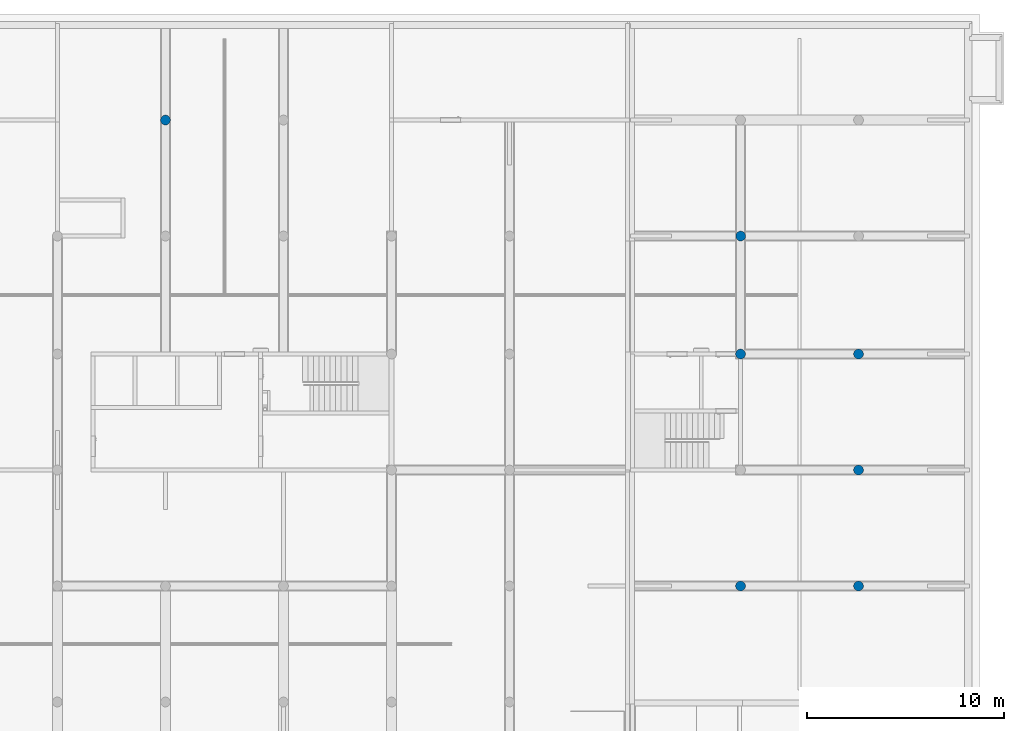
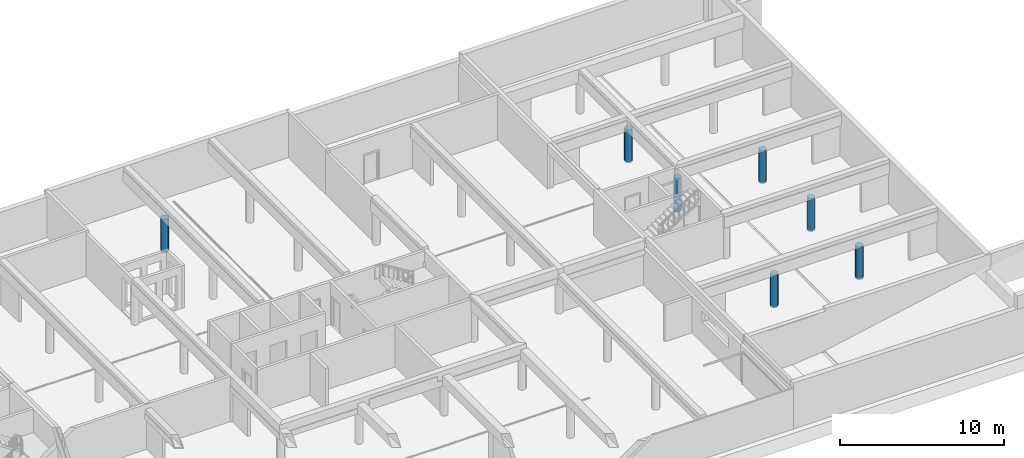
# One storey, part 5 of 25: 7 columns.
"""IFC2X3 building model written with IfcOpenShell, lengths in millimetres."""

from ifc_helpers import new_model, entity, si_unit, converted_unit, derived_unit, money_unit, direction, frame, origin_with_axes, place, context, subcontext, project, spatial, faceted_brep, material, type_object, element, save


model = new_model("IFC2X3")

# Units and contexts
model_context = context("Model", 3, precision=0.01, world=origin_with_axes(), true_north=direction((0.34421633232, 0.938890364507)))
body_context = subcontext(model_context, "Body", "Model", "MODEL_VIEW")
ifc_project = project(units=[si_unit("LENGTHUNIT", "METRE", prefix="MILLI"), si_unit("AREAUNIT", "SQUARE_METRE"), si_unit("VOLUMEUNIT", "CUBIC_METRE"), converted_unit("PLANEANGLEUNIT", "DEGREE", entity("IfcPlaneAngleMeasure", 0.0174532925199), si_unit("PLANEANGLEUNIT", "RADIAN"), dimensions=[0, 0, 0, 0, 0, 0, 0]), si_unit("SOLIDANGLEUNIT", "STERADIAN"), money_unit("USD"), converted_unit("TIMEUNIT", "Year", entity("IfcTimeMeasure", 31556926.0), si_unit("TIMEUNIT", "SECOND"), dimensions=[0, 0, 1, 0, 0, 0, 0]), si_unit("MASSUNIT", "GRAM", prefix="KILO"), si_unit("THERMODYNAMICTEMPERATUREUNIT", "DEGREE_CELSIUS"), si_unit("LUMINOUSINTENSITYUNIT", "LUMEN"), si_unit("ENERGYUNIT", "JOULE", prefix="MEGA"), derived_unit("THERMALCONDUCTANCEUNIT", [(si_unit("POWERUNIT", "WATT"), 1), (si_unit("LENGTHUNIT", "METRE"), -1), (si_unit("THERMODYNAMICTEMPERATUREUNIT", "KELVIN"), -1)]), derived_unit("SPECIFICHEATCAPACITYUNIT", [(si_unit("ENERGYUNIT", "JOULE"), 1), (si_unit("MASSUNIT", "GRAM", prefix="KILO"), -1), (si_unit("THERMODYNAMICTEMPERATUREUNIT", "KELVIN"), -1)]), derived_unit("MASSDENSITYUNIT", [(si_unit("MASSUNIT", "GRAM", prefix="KILO"), 1), (si_unit("VOLUMEUNIT", "CUBIC_METRE"), -1)])], contexts=[model_context])

# Site, building, storey
site_placement = place(None, origin_with_axes())
site = spatial("IfcSite", under=ifc_project, at=site_placement, Name="USTRONIE MORSKIE", CompositionType="ELEMENT")
building_placement = place(site_placement, origin_with_axes())
building = spatial("IfcBuilding", under=site, at=building_placement, Name="Budynek", CompositionType="ELEMENT")
storey_placement = place(building_placement, frame((0.0, 0.0, -3600.0), z_axis=(0.0, 0.0, 1.0), x_axis=(1.0, 0.0, 0.0)))
storey = spatial("IfcBuildingStorey", under=building, at=storey_placement, Name="GARAZ", CompositionType="ELEMENT", Elevation=-3600.0)

# Columns
ifc_material = material(Name="Beton konstrukcyjny 01")
column_type = type_object("IfcColumnType", Name="Beton konstrukcyjny 01 D500", PredefinedType="NOTDEFINED")
column_1_placement = place(storey_placement, frame((384817.920919, 744701.199036, -100.0), z_axis=(0.0, 0.0, 1.0), x_axis=(1.0, 0.0, 0.0)))
element("IfcColumn", 1, at=column_1_placement, inside=storey, type_object=column_type, material=ifc_material, Name="S1", context=body_context, shape_type="Brep", body=[
    faceted_brep([(-250.0, 0.0, 2470.00030619), (-250.0, 0.0, 0.0), (-246.201938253, -43.4120444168, 0.0), (-246.201938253, -43.4120444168, 2470.00030619), (-246.201938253, 43.4120444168, 2470.00030619), (-246.201938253, 43.4120444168, 0.0), (-234.923155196, 85.5050358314, 0.0), (-216.506350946, 125.0, 0.0), (-191.51111078, 160.696902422, 0.0), (-160.696902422, 191.51111078, 0.0), (-125.0, 216.506350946, 0.0), (-85.5050358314, 234.923155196, 0.0), (-43.4120444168, 246.201938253, 0.0), (0.0, 250.0, 0.0), (43.4120444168, 246.201938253, 0.0), (85.5050358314, 234.923155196, 0.0), (125.0, 216.506350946, 0.0), (160.696902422, 191.51111078, 0.0), (191.51111078, 160.696902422, 0.0), (216.506350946, 125.0, 0.0), (234.923155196, 85.5050358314, 0.0), (246.201938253, 43.4120444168, 0.0), (250.0, 0.0, 0.0), (246.201938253, -43.4120444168, 0.0), (234.923155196, -85.5050358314, 0.0), (216.506350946, -125.0, 0.0), (191.51111078, -160.696902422, 0.0), (160.696902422, -191.51111078, 0.0), (125.0, -216.506350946, 0.0), (85.5050358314, -234.923155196, 0.0), (43.4120444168, -246.201938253, 0.0), (0.0, -250.0, 0.0), (-43.4120444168, -246.201938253, 0.0), (-85.5050358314, -234.923155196, 0.0), (-125.0, -216.506350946, 0.0), (-160.696902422, -191.51111078, 0.0), (-191.51111078, -160.696902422, 0.0), (-216.506350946, -125.0, 0.0), (-234.923155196, -85.5050358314, 0.0), (-234.923155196, -85.5050358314, 2470.00030619), (-216.506350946, -125.0, 2470.00030619), (-191.51111078, -160.696902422, 2470.00030619), (-160.696902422, -191.51111078, 2470.00030619), (-125.0, -216.506350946, 2470.00030619), (-85.5050358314, -234.923155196, 2470.00030619), (-43.4120444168, -246.201938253, 2470.00030619), (0.0, -250.0, 2470.00030619), (43.4120444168, -246.201938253, 2470.00030619), (85.5050358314, -234.923155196, 2470.00030619), (125.0, -216.506350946, 2470.00030619), (160.696902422, -191.51111078, 2470.00030619), (191.51111078, -160.696902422, 2470.00030619), (216.506350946, -125.0, 2470.00030619), (234.923155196, -85.5050358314, 2470.00030619), (246.201938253, -43.4120444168, 2470.00030619), (250.0, 0.0, 2470.00030619), (246.201938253, 43.4120444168, 2470.00030619), (234.923155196, 85.5050358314, 2470.00030619), (216.506350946, 125.0, 2470.00030619), (191.51111078, 160.696902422, 2470.00030619), (160.696902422, 191.51111078, 2470.00030619), (125.0, 216.506350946, 2470.00030619), (85.5050358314, 234.923155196, 2470.00030619), (43.4120444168, 246.201938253, 2470.00030619), (0.0, 250.0, 2470.00030619), (-43.4120444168, 246.201938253, 2470.00030619), (-85.5050358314, 234.923155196, 2470.00030619), (-125.0, 216.506350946, 2470.00030619), (-160.696902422, 191.51111078, 2470.00030619), (-191.51111078, 160.696902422, 2470.00030619), (-216.506350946, 125.0, 2470.00030619), (-234.923155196, 85.5050358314, 2470.00030619)], [[[0, 1, 2, 3]], [[4, 5, 1, 0]], [[2, 1, 5, 6, 7, 8, 9, 10, 11, 12, 13, 14, 15, 16, 17, 18, 19, 20, 21, 22, 23, 24, 25, 26, 27, 28, 29, 30, 31, 32, 33, 34, 35, 36, 37, 38]], [[3, 2, 38, 39]], [[4, 0, 3, 39, 40, 41, 42, 43, 44, 45, 46, 47, 48, 49, 50, 51, 52, 53, 54, 55, 56, 57, 58, 59, 60, 61, 62, 63, 64, 65, 66, 67, 68, 69, 70, 71]], [[71, 6, 5, 4]], [[70, 7, 6, 71]], [[69, 8, 7, 70]], [[68, 9, 8, 69]], [[67, 10, 9, 68]], [[66, 11, 10, 67]], [[65, 12, 11, 66]], [[64, 13, 12, 65]], [[63, 14, 13, 64]], [[62, 15, 14, 63]], [[61, 16, 15, 62]], [[60, 17, 16, 61]], [[59, 18, 17, 60]], [[58, 19, 18, 59]], [[57, 20, 19, 58]], [[56, 21, 20, 57]], [[55, 22, 21, 56]], [[54, 23, 22, 55]], [[53, 24, 23, 54]], [[52, 25, 24, 53]], [[51, 26, 25, 52]], [[50, 27, 26, 51]], [[49, 28, 27, 50]], [[48, 29, 28, 49]], [[47, 30, 29, 48]], [[46, 31, 30, 47]], [[45, 32, 31, 46]], [[44, 33, 32, 45]], [[43, 34, 33, 44]], [[42, 35, 34, 43]], [[41, 36, 35, 42]], [[40, 37, 36, 41]], [[39, 38, 37, 40]]]),
])
column_2_placement = place(storey_placement, frame((420067.920919, 726901.199036, -100.0), z_axis=(0.0, 0.0, 1.0), x_axis=(1.0, 0.0, 0.0)))
element("IfcColumn", 2, at=column_2_placement, inside=storey, type_object=column_type, material=ifc_material, Name="S1", context=body_context, shape_type="Brep", body=[
    faceted_brep([(246.201938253, 43.4120444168, 2470.00030619), (246.201938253, 43.4120444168, 0.0), (234.923155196, 85.5050358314, 0.0), (234.923155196, 85.5050358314, 2470.00030619), (250.0, 0.0, 2470.00030619), (250.0, 0.0, 0.0), (246.201938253, -43.4120444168, 0.0), (234.923155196, -85.5050358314, 0.0), (216.506350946, -125.0, 0.0), (191.51111078, -160.696902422, 0.0), (160.696902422, -191.51111078, 0.0), (125.0, -216.506350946, 0.0), (85.5050358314, -234.923155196, 0.0), (43.4120444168, -246.201938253, 0.0), (0.0, -250.0, 0.0), (-43.4120444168, -246.201938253, 0.0), (-85.5050358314, -234.923155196, 0.0), (-125.0, -216.506350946, 0.0), (-160.696902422, -191.51111078, 0.0), (-191.51111078, -160.696902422, 0.0), (-216.506350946, -125.0, 0.0), (-234.923155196, -85.5050358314, 0.0), (-246.201938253, -43.4120444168, 0.0), (-250.0, 0.0, 0.0), (-246.201938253, 43.4120444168, 0.0), (-234.923155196, 85.5050358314, 0.0), (-216.506350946, 125.0, 0.0), (-191.51111078, 160.696902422, 0.0), (-160.696902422, 191.51111078, 0.0), (-125.0, 216.506350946, 0.0), (-85.5050358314, 234.923155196, 0.0), (-43.4120444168, 246.201938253, 0.0), (0.0, 250.0, 0.0), (43.4120444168, 246.201938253, 0.0), (85.5050358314, 234.923155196, 0.0), (125.0, 216.506350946, 0.0), (160.696902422, 191.51111078, 0.0), (191.51111078, 160.696902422, 0.0), (216.506350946, 125.0, 0.0), (216.506350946, 125.0, 2470.00030619), (191.51111078, 160.696902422, 2470.00030619), (160.696902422, 191.51111078, 2470.00030619), (125.0, 216.506350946, 2470.00030619), (85.5050358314, 234.923155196, 2470.00030619), (43.4120444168, 246.201938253, 2470.00030619), (0.0, 250.0, 2470.00030619), (-43.4120444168, 246.201938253, 2470.00030619), (-85.5050358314, 234.923155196, 2470.00030619), (-125.0, 216.506350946, 2470.00030619), (-160.696902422, 191.51111078, 2470.00030619), (-191.51111078, 160.696902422, 2470.00030619), (-216.506350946, 125.0, 2470.00030619), (-234.923155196, 85.5050358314, 2470.00030619), (-246.201938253, 43.4120444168, 2470.00030619), (-250.0, 0.0, 2470.00030619), (-246.201938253, -43.4120444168, 2470.00030619), (-234.923155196, -85.5050358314, 2470.00030619), (-216.506350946, -125.0, 2470.00030619), (-191.51111078, -160.696902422, 2470.00030619), (-160.696902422, -191.51111078, 2470.00030619), (-125.0, -216.506350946, 2470.00030619), (-85.5050358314, -234.923155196, 2470.00030619), (-43.4120444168, -246.201938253, 2470.00030619), (0.0, -250.0, 2470.00030619), (43.4120444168, -246.201938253, 2470.00030619), (85.5050358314, -234.923155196, 2470.00030619), (125.0, -216.506350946, 2470.00030619), (160.696902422, -191.51111078, 2470.00030619), (191.51111078, -160.696902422, 2470.00030619), (216.506350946, -125.0, 2470.00030619), (234.923155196, -85.5050358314, 2470.00030619), (246.201938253, -43.4120444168, 2470.00030619)], [[[0, 1, 2, 3]], [[4, 5, 1, 0]], [[2, 1, 5, 6, 7, 8, 9, 10, 11, 12, 13, 14, 15, 16, 17, 18, 19, 20, 21, 22, 23, 24, 25, 26, 27, 28, 29, 30, 31, 32, 33, 34, 35, 36, 37, 38]], [[3, 2, 38, 39]], [[4, 0, 3, 39, 40, 41, 42, 43, 44, 45, 46, 47, 48, 49, 50, 51, 52, 53, 54, 55, 56, 57, 58, 59, 60, 61, 62, 63, 64, 65, 66, 67, 68, 69, 70, 71]], [[71, 6, 5, 4]], [[70, 7, 6, 71]], [[69, 8, 7, 70]], [[68, 9, 8, 69]], [[67, 10, 9, 68]], [[66, 11, 10, 67]], [[65, 12, 11, 66]], [[64, 13, 12, 65]], [[63, 14, 13, 64]], [[62, 15, 14, 63]], [[61, 16, 15, 62]], [[60, 17, 16, 61]], [[59, 18, 17, 60]], [[58, 19, 18, 59]], [[57, 20, 19, 58]], [[56, 21, 20, 57]], [[55, 22, 21, 56]], [[54, 23, 22, 55]], [[53, 24, 23, 54]], [[52, 25, 24, 53]], [[51, 26, 25, 52]], [[50, 27, 26, 51]], [[49, 28, 27, 50]], [[48, 29, 28, 49]], [[47, 30, 29, 48]], [[46, 31, 30, 47]], [[45, 32, 31, 46]], [[44, 33, 32, 45]], [[43, 34, 33, 44]], [[42, 35, 34, 43]], [[41, 36, 35, 42]], [[40, 37, 36, 41]], [[39, 38, 37, 40]]]),
])
column_3_placement = place(storey_placement, frame((420067.920919, 732801.199036, -100.0), z_axis=(0.0, 0.0, 1.0), x_axis=(1.0, 0.0, 0.0)))
element("IfcColumn", 3, at=column_3_placement, inside=storey, type_object=column_type, material=ifc_material, Name="S1", context=body_context, shape_type="Brep", body=[
    faceted_brep([(246.201938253, 43.4120444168, 2470.00030619), (246.201938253, 43.4120444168, 0.0), (234.923155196, 85.5050358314, 0.0), (234.923155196, 85.5050358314, 2470.00030619), (250.0, 0.0, 2470.00030619), (250.0, 0.0, 0.0), (246.201938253, -43.4120444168, 0.0), (234.923155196, -85.5050358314, 0.0), (216.506350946, -125.0, 0.0), (191.51111078, -160.696902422, 0.0), (160.696902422, -191.51111078, 0.0), (125.0, -216.506350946, 0.0), (85.5050358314, -234.923155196, 0.0), (43.4120444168, -246.201938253, 0.0), (0.0, -250.0, 0.0), (-43.4120444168, -246.201938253, 0.0), (-85.5050358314, -234.923155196, 0.0), (-125.0, -216.506350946, 0.0), (-160.696902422, -191.51111078, 0.0), (-191.51111078, -160.696902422, 0.0), (-216.506350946, -125.0, 0.0), (-234.923155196, -85.5050358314, 0.0), (-246.201938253, -43.4120444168, 0.0), (-250.0, 0.0, 0.0), (-246.201938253, 43.4120444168, 0.0), (-234.923155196, 85.5050358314, 0.0), (-216.506350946, 125.0, 0.0), (-191.51111078, 160.696902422, 0.0), (-160.696902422, 191.51111078, 0.0), (-125.0, 216.506350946, 0.0), (-85.5050358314, 234.923155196, 0.0), (-43.4120444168, 246.201938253, 0.0), (0.0, 250.0, 0.0), (43.4120444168, 246.201938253, 0.0), (85.5050358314, 234.923155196, 0.0), (125.0, 216.506350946, 0.0), (160.696902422, 191.51111078, 0.0), (191.51111078, 160.696902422, 0.0), (216.506350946, 125.0, 0.0), (216.506350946, 125.0, 2470.00030619), (191.51111078, 160.696902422, 2470.00030619), (160.696902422, 191.51111078, 2470.00030619), (125.0, 216.506350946, 2470.00030619), (85.5050358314, 234.923155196, 2470.00030619), (43.4120444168, 246.201938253, 2470.00030619), (0.0, 250.0, 2470.00030619), (-43.4120444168, 246.201938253, 2470.00030619), (-85.5050358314, 234.923155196, 2470.00030619), (-125.0, 216.506350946, 2470.00030619), (-160.696902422, 191.51111078, 2470.00030619), (-191.51111078, 160.696902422, 2470.00030619), (-216.506350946, 125.0, 2470.00030619), (-234.923155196, 85.5050358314, 2470.00030619), (-246.201938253, 43.4120444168, 2470.00030619), (-250.0, 0.0, 2470.00030619), (-246.201938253, -43.4120444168, 2470.00030619), (-234.923155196, -85.5050358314, 2470.00030619), (-216.506350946, -125.0, 2470.00030619), (-191.51111078, -160.696902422, 2470.00030619), (-160.696902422, -191.51111078, 2470.00030619), (-125.0, -216.506350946, 2470.00030619), (-85.5050358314, -234.923155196, 2470.00030619), (-43.4120444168, -246.201938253, 2470.00030619), (0.0, -250.0, 2470.00030619), (43.4120444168, -246.201938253, 2470.00030619), (85.5050358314, -234.923155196, 2470.00030619), (125.0, -216.506350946, 2470.00030619), (160.696902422, -191.51111078, 2470.00030619), (191.51111078, -160.696902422, 2470.00030619), (216.506350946, -125.0, 2470.00030619), (234.923155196, -85.5050358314, 2470.00030619), (246.201938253, -43.4120444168, 2470.00030619)], [[[0, 1, 2, 3]], [[4, 5, 1, 0]], [[2, 1, 5, 6, 7, 8, 9, 10, 11, 12, 13, 14, 15, 16, 17, 18, 19, 20, 21, 22, 23, 24, 25, 26, 27, 28, 29, 30, 31, 32, 33, 34, 35, 36, 37, 38]], [[3, 2, 38, 39]], [[4, 0, 3, 39, 40, 41, 42, 43, 44, 45, 46, 47, 48, 49, 50, 51, 52, 53, 54, 55, 56, 57, 58, 59, 60, 61, 62, 63, 64, 65, 66, 67, 68, 69, 70, 71]], [[71, 6, 5, 4]], [[70, 7, 6, 71]], [[69, 8, 7, 70]], [[68, 9, 8, 69]], [[67, 10, 9, 68]], [[66, 11, 10, 67]], [[65, 12, 11, 66]], [[64, 13, 12, 65]], [[63, 14, 13, 64]], [[62, 15, 14, 63]], [[61, 16, 15, 62]], [[60, 17, 16, 61]], [[59, 18, 17, 60]], [[58, 19, 18, 59]], [[57, 20, 19, 58]], [[56, 21, 20, 57]], [[55, 22, 21, 56]], [[54, 23, 22, 55]], [[53, 24, 23, 54]], [[52, 25, 24, 53]], [[51, 26, 25, 52]], [[50, 27, 26, 51]], [[49, 28, 27, 50]], [[48, 29, 28, 49]], [[47, 30, 29, 48]], [[46, 31, 30, 47]], [[45, 32, 31, 46]], [[44, 33, 32, 45]], [[43, 34, 33, 44]], [[42, 35, 34, 43]], [[41, 36, 35, 42]], [[40, 37, 36, 41]], [[39, 38, 37, 40]]]),
])
column_4_placement = place(storey_placement, frame((414067.920919, 732801.199036, -100.0), z_axis=(0.0, 0.0, 1.0), x_axis=(1.0, 0.0, 0.0)))
element("IfcColumn", 4, at=column_4_placement, inside=storey, type_object=column_type, material=ifc_material, Name="S1", context=body_context, shape_type="Brep", body=[
    faceted_brep([(246.201938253, 43.4120444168, 2470.00030619), (246.201938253, 43.4120444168, 0.0), (234.923155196, 85.5050358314, 0.0), (234.923155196, 85.5050358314, 2470.00030619), (250.0, 0.0, 2470.00030619), (250.0, 0.0, 0.0), (246.201938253, -43.4120444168, 0.0), (234.923155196, -85.5050358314, 0.0), (216.506350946, -125.0, 0.0), (191.51111078, -160.696902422, 0.0), (160.696902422, -191.51111078, 0.0), (125.0, -216.506350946, 0.0), (85.5050358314, -234.923155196, 0.0), (43.4120444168, -246.201938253, 0.0), (0.0, -250.0, 0.0), (-43.4120444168, -246.201938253, 0.0), (-85.5050358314, -234.923155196, 0.0), (-125.0, -216.506350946, 0.0), (-160.696902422, -191.51111078, 0.0), (-191.51111078, -160.696902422, 0.0), (-216.506350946, -125.0, 0.0), (-234.923155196, -85.5050358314, 0.0), (-246.201938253, -43.4120444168, 0.0), (-250.0, 0.0, 0.0), (-246.201938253, 43.4120444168, 0.0), (-234.923155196, 85.5050358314, 0.0), (-216.506350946, 125.0, 0.0), (-191.51111078, 160.696902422, 0.0), (-160.696902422, 191.51111078, 0.0), (-125.0, 216.506350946, 0.0), (-85.5050358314, 234.923155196, 0.0), (-43.4120444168, 246.201938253, 0.0), (0.0, 250.0, 0.0), (43.4120444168, 246.201938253, 0.0), (85.5050358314, 234.923155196, 0.0), (125.0, 216.506350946, 0.0), (160.696902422, 191.51111078, 0.0), (191.51111078, 160.696902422, 0.0), (216.506350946, 125.0, 0.0), (216.506350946, 125.0, 2470.00030619), (191.51111078, 160.696902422, 2470.00030619), (160.696902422, 191.51111078, 2470.00030619), (125.0, 216.506350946, 2470.00030619), (85.5050358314, 234.923155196, 2470.00030619), (43.4120444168, 246.201938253, 2470.00030619), (0.0, 250.0, 2470.00030619), (-43.4120444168, 246.201938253, 2470.00030619), (-85.5050358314, 234.923155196, 2470.00030619), (-125.0, 216.506350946, 2470.00030619), (-160.696902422, 191.51111078, 2470.00030619), (-191.51111078, 160.696902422, 2470.00030619), (-216.506350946, 125.0, 2470.00030619), (-234.923155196, 85.5050358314, 2470.00030619), (-246.201938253, 43.4120444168, 2470.00030619), (-250.0, 0.0, 2470.00030619), (-246.201938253, -43.4120444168, 2470.00030619), (-234.923155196, -85.5050358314, 2470.00030619), (-216.506350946, -125.0, 2470.00030619), (-191.51111078, -160.696902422, 2470.00030619), (-160.696902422, -191.51111078, 2470.00030619), (-125.0, -216.506350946, 2470.00030619), (-85.5050358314, -234.923155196, 2470.00030619), (-43.4120444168, -246.201938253, 2470.00030619), (0.0, -250.0, 2470.00030619), (43.4120444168, -246.201938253, 2470.00030619), (85.5050358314, -234.923155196, 2470.00030619), (125.0, -216.506350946, 2470.00030619), (160.696902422, -191.51111078, 2470.00030619), (191.51111078, -160.696902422, 2470.00030619), (216.506350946, -125.0, 2470.00030619), (234.923155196, -85.5050358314, 2470.00030619), (246.201938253, -43.4120444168, 2470.00030619)], [[[0, 1, 2, 3]], [[4, 5, 1, 0]], [[2, 1, 5, 6, 7, 8, 9, 10, 11, 12, 13, 14, 15, 16, 17, 18, 19, 20, 21, 22, 23, 24, 25, 26, 27, 28, 29, 30, 31, 32, 33, 34, 35, 36, 37, 38]], [[3, 2, 38, 39]], [[4, 0, 3, 39, 40, 41, 42, 43, 44, 45, 46, 47, 48, 49, 50, 51, 52, 53, 54, 55, 56, 57, 58, 59, 60, 61, 62, 63, 64, 65, 66, 67, 68, 69, 70, 71]], [[71, 6, 5, 4]], [[70, 7, 6, 71]], [[69, 8, 7, 70]], [[68, 9, 8, 69]], [[67, 10, 9, 68]], [[66, 11, 10, 67]], [[65, 12, 11, 66]], [[64, 13, 12, 65]], [[63, 14, 13, 64]], [[62, 15, 14, 63]], [[61, 16, 15, 62]], [[60, 17, 16, 61]], [[59, 18, 17, 60]], [[58, 19, 18, 59]], [[57, 20, 19, 58]], [[56, 21, 20, 57]], [[55, 22, 21, 56]], [[54, 23, 22, 55]], [[53, 24, 23, 54]], [[52, 25, 24, 53]], [[51, 26, 25, 52]], [[50, 27, 26, 51]], [[49, 28, 27, 50]], [[48, 29, 28, 49]], [[47, 30, 29, 48]], [[46, 31, 30, 47]], [[45, 32, 31, 46]], [[44, 33, 32, 45]], [[43, 34, 33, 44]], [[42, 35, 34, 43]], [[41, 36, 35, 42]], [[40, 37, 36, 41]], [[39, 38, 37, 40]]]),
])
column_5_placement = place(storey_placement, frame((420067.920919, 721001.199036, -100.0), z_axis=(0.0, 0.0, 1.0), x_axis=(1.0, 0.0, 0.0)))
element("IfcColumn", 5, at=column_5_placement, inside=storey, type_object=column_type, material=ifc_material, Name="S1", context=body_context, shape_type="Brep", body=[
    faceted_brep([(246.216710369, 43.4146491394, 2470.00030619), (246.216710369, 43.4146491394, 0.0), (234.937250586, 85.5101661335, 0.0), (234.937250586, 85.5101661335, 2470.00030619), (250.015, 0.0, 2470.00030619), (250.015, 0.0, 0.0), (246.216710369, -43.4146491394, 0.0), (234.937250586, -85.5101661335, 0.0), (216.519341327, -125.0075, 0.0), (191.522601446, -160.706544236, 0.0), (160.706544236, -191.522601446, 0.0), (125.0075, -216.519341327, 0.0), (85.5101661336, -234.937250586, 0.0), (43.4146491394, -246.216710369, 0.0), (0.0, -250.015, 0.0), (-43.4146491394, -246.216710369, 0.0), (-85.5101661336, -234.937250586, 0.0), (-125.0075, -216.519341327, 0.0), (-160.706544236, -191.522601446, 0.0), (-191.522601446, -160.706544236, 0.0), (-216.519341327, -125.0075, 0.0), (-234.937250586, -85.5101661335, 0.0), (-246.216710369, -43.4146491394, 0.0), (-250.015, 0.0, 0.0), (-246.216710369, 43.4146491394, 0.0), (-234.937250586, 85.5101661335, 0.0), (-216.519341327, 125.0075, 0.0), (-191.522601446, 160.706544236, 0.0), (-160.706544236, 191.522601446, 0.0), (-125.0075, 216.519341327, 0.0), (-85.5101661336, 234.937250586, 0.0), (-43.4146491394, 246.216710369, 0.0), (0.0, 250.015, 0.0), (43.4146491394, 246.216710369, 0.0), (85.5101661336, 234.937250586, 0.0), (125.0075, 216.519341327, 0.0), (160.706544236, 191.522601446, 0.0), (191.522601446, 160.706544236, 0.0), (216.519341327, 125.0075, 0.0), (216.519341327, 125.0075, 2470.00030619), (191.522601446, 160.706544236, 2470.00030619), (160.706544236, 191.522601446, 2470.00030619), (125.0075, 216.519341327, 2470.00030619), (85.5101661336, 234.937250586, 2470.00030619), (43.4146491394, 246.216710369, 2470.00030619), (0.0, 250.015, 2470.00030619), (-43.4146491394, 246.216710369, 2470.00030619), (-85.5101661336, 234.937250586, 2470.00030619), (-125.0075, 216.519341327, 2470.00030619), (-160.706544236, 191.522601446, 2470.00030619), (-191.522601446, 160.706544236, 2470.00030619), (-216.519341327, 125.0075, 2470.00030619), (-234.937250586, 85.5101661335, 2470.00030619), (-246.216710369, 43.4146491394, 2470.00030619), (-250.015, 0.0, 2470.00030619), (-246.216710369, -43.4146491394, 2470.00030619), (-234.937250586, -85.5101661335, 2470.00030619), (-216.519341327, -125.0075, 2470.00030619), (-191.522601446, -160.706544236, 2470.00030619), (-160.706544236, -191.522601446, 2470.00030619), (-125.0075, -216.519341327, 2470.00030619), (-85.5101661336, -234.937250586, 2470.00030619), (-43.4146491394, -246.216710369, 2470.00030619), (0.0, -250.015, 2470.00030619), (43.4146491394, -246.216710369, 2470.00030619), (85.5101661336, -234.937250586, 2470.00030619), (125.0075, -216.519341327, 2470.00030619), (160.706544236, -191.522601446, 2470.00030619), (191.522601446, -160.706544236, 2470.00030619), (216.519341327, -125.0075, 2470.00030619), (234.937250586, -85.5101661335, 2470.00030619), (246.216710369, -43.4146491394, 2470.00030619)], [[[0, 1, 2, 3]], [[4, 5, 1, 0]], [[2, 1, 5, 6, 7, 8, 9, 10, 11, 12, 13, 14, 15, 16, 17, 18, 19, 20, 21, 22, 23, 24, 25, 26, 27, 28, 29, 30, 31, 32, 33, 34, 35, 36, 37, 38]], [[3, 2, 38, 39]], [[4, 0, 3, 39, 40, 41, 42, 43, 44, 45, 46, 47, 48, 49, 50, 51, 52, 53, 54, 55, 56, 57, 58, 59, 60, 61, 62, 63, 64, 65, 66, 67, 68, 69, 70, 71]], [[71, 6, 5, 4]], [[70, 7, 6, 71]], [[69, 8, 7, 70]], [[68, 9, 8, 69]], [[67, 10, 9, 68]], [[66, 11, 10, 67]], [[65, 12, 11, 66]], [[64, 13, 12, 65]], [[63, 14, 13, 64]], [[62, 15, 14, 63]], [[61, 16, 15, 62]], [[60, 17, 16, 61]], [[59, 18, 17, 60]], [[58, 19, 18, 59]], [[57, 20, 19, 58]], [[56, 21, 20, 57]], [[55, 22, 21, 56]], [[54, 23, 22, 55]], [[53, 24, 23, 54]], [[52, 25, 24, 53]], [[51, 26, 25, 52]], [[50, 27, 26, 51]], [[49, 28, 27, 50]], [[48, 29, 28, 49]], [[47, 30, 29, 48]], [[46, 31, 30, 47]], [[45, 32, 31, 46]], [[44, 33, 32, 45]], [[43, 34, 33, 44]], [[42, 35, 34, 43]], [[41, 36, 35, 42]], [[40, 37, 36, 41]], [[39, 38, 37, 40]]]),
])
column_6_placement = place(storey_placement, frame((414067.920919, 721001.199036, -100.0), z_axis=(0.0, 0.0, 1.0), x_axis=(1.0, 0.0, 0.0)))
element("IfcColumn", 6, at=column_6_placement, inside=storey, type_object=column_type, material=ifc_material, Name="S1", context=body_context, shape_type="Brep", body=[
    faceted_brep([(-250.015, 0.0, 2470.00030619), (-250.015, 0.0, 0.0), (-246.216710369, -43.4146491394, 0.0), (-246.216710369, -43.4146491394, 2470.00030619), (-246.216710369, 43.4146491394, 2470.00030619), (-246.216710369, 43.4146491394, 0.0), (-234.937250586, 85.5101661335, 0.0), (-216.519341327, 125.0075, 0.0), (-191.522601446, 160.706544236, 0.0), (-160.706544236, 191.522601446, 0.0), (-125.0075, 216.519341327, 0.0), (-85.5101661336, 234.937250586, 0.0), (-43.4146491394, 246.216710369, 0.0), (0.0, 250.015, 0.0), (43.4146491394, 246.216710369, 0.0), (85.5101661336, 234.937250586, 0.0), (125.0075, 216.519341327, 0.0), (160.706544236, 191.522601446, 0.0), (191.522601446, 160.706544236, 0.0), (216.519341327, 125.0075, 0.0), (234.937250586, 85.5101661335, 0.0), (246.216710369, 43.4146491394, 0.0), (250.015, 0.0, 0.0), (246.216710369, -43.4146491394, 0.0), (234.937250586, -85.5101661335, 0.0), (216.519341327, -125.0075, 0.0), (191.522601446, -160.706544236, 0.0), (160.706544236, -191.522601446, 0.0), (125.0075, -216.519341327, 0.0), (85.5101661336, -234.937250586, 0.0), (43.4146491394, -246.216710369, 0.0), (0.0, -250.015, 0.0), (-43.4146491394, -246.216710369, 0.0), (-85.5101661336, -234.937250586, 0.0), (-125.0075, -216.519341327, 0.0), (-160.706544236, -191.522601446, 0.0), (-191.522601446, -160.706544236, 0.0), (-216.519341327, -125.0075, 0.0), (-234.937250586, -85.5101661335, 0.0), (-234.937250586, -85.5101661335, 2470.00030619), (-216.519341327, -125.0075, 2470.00030619), (-191.522601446, -160.706544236, 2470.00030619), (-160.706544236, -191.522601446, 2470.00030619), (-125.0075, -216.519341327, 2470.00030619), (-85.5101661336, -234.937250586, 2470.00030619), (-43.4146491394, -246.216710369, 2470.00030619), (0.0, -250.015, 2470.00030619), (43.4146491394, -246.216710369, 2470.00030619), (85.5101661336, -234.937250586, 2470.00030619), (125.0075, -216.519341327, 2470.00030619), (160.706544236, -191.522601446, 2470.00030619), (191.522601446, -160.706544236, 2470.00030619), (216.519341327, -125.0075, 2470.00030619), (234.937250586, -85.5101661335, 2470.00030619), (246.216710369, -43.4146491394, 2470.00030619), (250.015, 0.0, 2470.00030619), (246.216710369, 43.4146491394, 2470.00030619), (234.937250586, 85.5101661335, 2470.00030619), (216.519341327, 125.0075, 2470.00030619), (191.522601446, 160.706544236, 2470.00030619), (160.706544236, 191.522601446, 2470.00030619), (125.0075, 216.519341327, 2470.00030619), (85.5101661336, 234.937250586, 2470.00030619), (43.4146491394, 246.216710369, 2470.00030619), (0.0, 250.015, 2470.00030619), (-43.4146491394, 246.216710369, 2470.00030619), (-85.5101661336, 234.937250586, 2470.00030619), (-125.0075, 216.519341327, 2470.00030619), (-160.706544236, 191.522601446, 2470.00030619), (-191.522601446, 160.706544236, 2470.00030619), (-216.519341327, 125.0075, 2470.00030619), (-234.937250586, 85.5101661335, 2470.00030619)], [[[0, 1, 2, 3]], [[4, 5, 1, 0]], [[2, 1, 5, 6, 7, 8, 9, 10, 11, 12, 13, 14, 15, 16, 17, 18, 19, 20, 21, 22, 23, 24, 25, 26, 27, 28, 29, 30, 31, 32, 33, 34, 35, 36, 37, 38]], [[3, 2, 38, 39]], [[4, 0, 3, 39, 40, 41, 42, 43, 44, 45, 46, 47, 48, 49, 50, 51, 52, 53, 54, 55, 56, 57, 58, 59, 60, 61, 62, 63, 64, 65, 66, 67, 68, 69, 70, 71]], [[71, 6, 5, 4]], [[70, 7, 6, 71]], [[69, 8, 7, 70]], [[68, 9, 8, 69]], [[67, 10, 9, 68]], [[66, 11, 10, 67]], [[65, 12, 11, 66]], [[64, 13, 12, 65]], [[63, 14, 13, 64]], [[62, 15, 14, 63]], [[61, 16, 15, 62]], [[60, 17, 16, 61]], [[59, 18, 17, 60]], [[58, 19, 18, 59]], [[57, 20, 19, 58]], [[56, 21, 20, 57]], [[55, 22, 21, 56]], [[54, 23, 22, 55]], [[53, 24, 23, 54]], [[52, 25, 24, 53]], [[51, 26, 25, 52]], [[50, 27, 26, 51]], [[49, 28, 27, 50]], [[48, 29, 28, 49]], [[47, 30, 29, 48]], [[46, 31, 30, 47]], [[45, 32, 31, 46]], [[44, 33, 32, 45]], [[43, 34, 33, 44]], [[42, 35, 34, 43]], [[41, 36, 35, 42]], [[40, 37, 36, 41]], [[39, 38, 37, 40]]]),
])
column_7_placement = place(storey_placement, frame((414073.722271, 738801.199036, -100.0), z_axis=(0.0, 0.0, 1.0), x_axis=(1.0, 0.0, 0.0)))
element("IfcColumn", 7, at=column_7_placement, inside=storey, type_object=column_type, material=ifc_material, Name="S1", context=body_context, shape_type="Brep", body=[
    faceted_brep([(-250.0, 0.0, 2470.00030619), (-250.0, 0.0, 0.0), (-246.201938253, -43.4120444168, 0.0), (-246.201938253, -43.4120444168, 2470.00030619), (-246.201938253, 43.4120444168, 2470.00030619), (-246.201938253, 43.4120444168, 0.0), (-234.923155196, 85.5050358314, 0.0), (-216.506350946, 125.0, 0.0), (-191.51111078, 160.696902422, 0.0), (-160.696902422, 191.51111078, 0.0), (-125.0, 216.506350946, 0.0), (-85.5050358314, 234.923155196, 0.0), (-43.4120444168, 246.201938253, 0.0), (0.0, 250.0, 0.0), (43.4120444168, 246.201938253, 0.0), (85.5050358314, 234.923155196, 0.0), (125.0, 216.506350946, 0.0), (160.696902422, 191.51111078, 0.0), (191.51111078, 160.696902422, 0.0), (216.506350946, 125.0, 0.0), (234.923155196, 85.5050358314, 0.0), (246.201938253, 43.4120444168, 0.0), (250.0, 0.0, 0.0), (246.201938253, -43.4120444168, 0.0), (234.923155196, -85.5050358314, 0.0), (216.506350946, -125.0, 0.0), (191.51111078, -160.696902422, 0.0), (160.696902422, -191.51111078, 0.0), (125.0, -216.506350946, 0.0), (85.5050358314, -234.923155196, 0.0), (43.4120444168, -246.201938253, 0.0), (0.0, -250.0, 0.0), (-43.4120444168, -246.201938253, 0.0), (-85.5050358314, -234.923155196, 0.0), (-125.0, -216.506350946, 0.0), (-160.696902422, -191.51111078, 0.0), (-191.51111078, -160.696902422, 0.0), (-216.506350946, -125.0, 0.0), (-234.923155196, -85.5050358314, 0.0), (-234.923155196, -85.5050358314, 2470.00030619), (-216.506350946, -125.0, 2470.00030619), (-191.51111078, -160.696902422, 2470.00030619), (-160.696902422, -191.51111078, 2470.00030619), (-125.0, -216.506350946, 2470.00030619), (-85.5050358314, -234.923155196, 2470.00030619), (-43.4120444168, -246.201938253, 2470.00030619), (0.0, -250.0, 2470.00030619), (43.4120444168, -246.201938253, 2470.00030619), (85.5050358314, -234.923155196, 2470.00030619), (125.0, -216.506350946, 2470.00030619), (160.696902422, -191.51111078, 2470.00030619), (191.51111078, -160.696902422, 2470.00030619), (216.506350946, -125.0, 2470.00030619), (234.923155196, -85.5050358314, 2470.00030619), (246.201938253, -43.4120444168, 2470.00030619), (250.0, 0.0, 2470.00030619), (246.201938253, 43.4120444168, 2470.00030619), (234.923155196, 85.5050358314, 2470.00030619), (216.506350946, 125.0, 2470.00030619), (191.51111078, 160.696902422, 2470.00030619), (160.696902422, 191.51111078, 2470.00030619), (125.0, 216.506350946, 2470.00030619), (85.5050358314, 234.923155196, 2470.00030619), (43.4120444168, 246.201938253, 2470.00030619), (0.0, 250.0, 2470.00030619), (-43.4120444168, 246.201938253, 2470.00030619), (-85.5050358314, 234.923155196, 2470.00030619), (-125.0, 216.506350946, 2470.00030619), (-160.696902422, 191.51111078, 2470.00030619), (-191.51111078, 160.696902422, 2470.00030619), (-216.506350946, 125.0, 2470.00030619), (-234.923155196, 85.5050358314, 2470.00030619)], [[[0, 1, 2, 3]], [[4, 5, 1, 0]], [[2, 1, 5, 6, 7, 8, 9, 10, 11, 12, 13, 14, 15, 16, 17, 18, 19, 20, 21, 22, 23, 24, 25, 26, 27, 28, 29, 30, 31, 32, 33, 34, 35, 36, 37, 38]], [[3, 2, 38, 39]], [[4, 0, 3, 39, 40, 41, 42, 43, 44, 45, 46, 47, 48, 49, 50, 51, 52, 53, 54, 55, 56, 57, 58, 59, 60, 61, 62, 63, 64, 65, 66, 67, 68, 69, 70, 71]], [[71, 6, 5, 4]], [[70, 7, 6, 71]], [[69, 8, 7, 70]], [[68, 9, 8, 69]], [[67, 10, 9, 68]], [[66, 11, 10, 67]], [[65, 12, 11, 66]], [[64, 13, 12, 65]], [[63, 14, 13, 64]], [[62, 15, 14, 63]], [[61, 16, 15, 62]], [[60, 17, 16, 61]], [[59, 18, 17, 60]], [[58, 19, 18, 59]], [[57, 20, 19, 58]], [[56, 21, 20, 57]], [[55, 22, 21, 56]], [[54, 23, 22, 55]], [[53, 24, 23, 54]], [[52, 25, 24, 53]], [[51, 26, 25, 52]], [[50, 27, 26, 51]], [[49, 28, 27, 50]], [[48, 29, 28, 49]], [[47, 30, 29, 48]], [[46, 31, 30, 47]], [[45, 32, 31, 46]], [[44, 33, 32, 45]], [[43, 34, 33, 44]], [[42, 35, 34, 43]], [[41, 36, 35, 42]], [[40, 37, 36, 41]], [[39, 38, 37, 40]]]),
])

save(model, "model.ifc")
